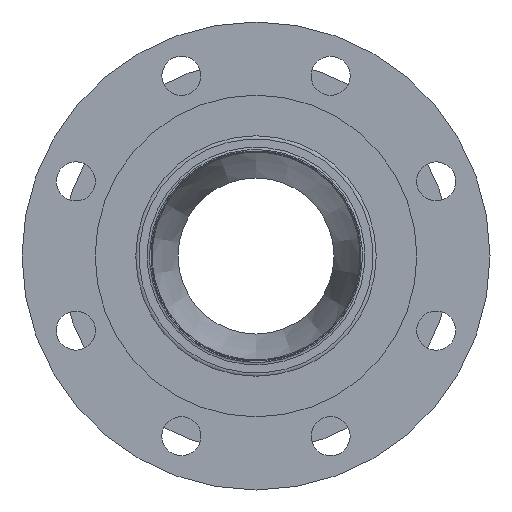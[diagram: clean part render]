
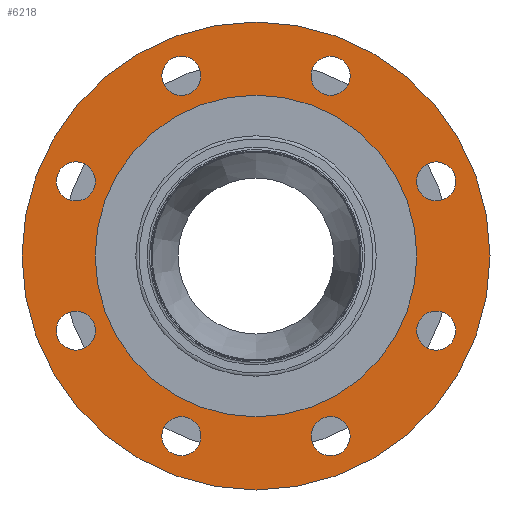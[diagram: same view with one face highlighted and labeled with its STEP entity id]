
A CAD part, front view. The second image highlights one B-rep face of the part: STEP entity #6218.
In plain terms, the highlighted planar face has unit normal (0, -1, 0) as drawn and (0, 1, 0) by its records, which use the part's own axes.
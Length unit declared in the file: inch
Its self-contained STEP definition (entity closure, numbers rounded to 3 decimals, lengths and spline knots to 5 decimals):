
#5879=CARTESIAN_POINT('',(-1.1699,0.5625,3.72971));
#5880=VERTEX_POINT('',#5879);
#5881=CARTESIAN_POINT('',(-1.43506,0.5625,3.46455));
#5882=DIRECTION('',(0.0,-1.0,0.0));
#5883=DIRECTION('',(0.707,0.0,0.707));
#5884=AXIS2_PLACEMENT_3D('',#5881,#5882,#5883);
#5885=CIRCLE('',#5884,0.375);
#5886=EDGE_CURVE('',#5880,#5880,#5885,.T.);
#5907=CARTESIAN_POINT('',(-3.46455,0.5625,1.81006));
#5908=VERTEX_POINT('',#5907);
#5909=CARTESIAN_POINT('',(-3.46455,0.5625,1.43506));
#5910=DIRECTION('',(0.0,-1.0,0.0));
#5911=DIRECTION('',(0.0,0.0,1.0));
#5912=AXIS2_PLACEMENT_3D('',#5909,#5910,#5911);
#5913=CIRCLE('',#5912,0.375);
#5914=EDGE_CURVE('',#5908,#5908,#5913,.T.);
#5935=CARTESIAN_POINT('',(-3.72971,0.5625,-1.1699));
#5936=VERTEX_POINT('',#5935);
#5937=CARTESIAN_POINT('',(-3.46455,0.5625,-1.43506));
#5938=DIRECTION('',(0.0,-1.0,0.0));
#5939=DIRECTION('',(-0.707,0.0,0.707));
#5940=AXIS2_PLACEMENT_3D('',#5937,#5938,#5939);
#5941=CIRCLE('',#5940,0.375);
#5942=EDGE_CURVE('',#5936,#5936,#5941,.T.);
#5963=CARTESIAN_POINT('',(-1.81006,0.5625,-3.46455));
#5964=VERTEX_POINT('',#5963);
#5965=CARTESIAN_POINT('',(-1.43506,0.5625,-3.46455));
#5966=DIRECTION('',(0.0,-1.0,0.0));
#5967=DIRECTION('',(-1.0,0.0,0.0));
#5968=AXIS2_PLACEMENT_3D('',#5965,#5966,#5967);
#5969=CIRCLE('',#5968,0.375);
#5970=EDGE_CURVE('',#5964,#5964,#5969,.T.);
#5991=CARTESIAN_POINT('',(1.1699,0.5625,-3.72971));
#5992=VERTEX_POINT('',#5991);
#5993=CARTESIAN_POINT('',(1.43506,0.5625,-3.46455));
#5994=DIRECTION('',(0.0,-1.0,0.0));
#5995=DIRECTION('',(-0.707,0.0,-0.707));
#5996=AXIS2_PLACEMENT_3D('',#5993,#5994,#5995);
#5997=CIRCLE('',#5996,0.375);
#5998=EDGE_CURVE('',#5992,#5992,#5997,.T.);
#6019=CARTESIAN_POINT('',(3.46455,0.5625,-1.81006));
#6020=VERTEX_POINT('',#6019);
#6021=CARTESIAN_POINT('',(3.46455,0.5625,-1.43506));
#6022=DIRECTION('',(0.0,-1.0,0.0));
#6023=DIRECTION('',(0.0,0.0,-1.0));
#6024=AXIS2_PLACEMENT_3D('',#6021,#6022,#6023);
#6025=CIRCLE('',#6024,0.375);
#6026=EDGE_CURVE('',#6020,#6020,#6025,.T.);
#6047=CARTESIAN_POINT('',(3.72971,0.5625,1.1699));
#6048=VERTEX_POINT('',#6047);
#6049=CARTESIAN_POINT('',(3.46455,0.5625,1.43506));
#6050=DIRECTION('',(0.0,-1.0,0.0));
#6051=DIRECTION('',(0.707,0.0,-0.707));
#6052=AXIS2_PLACEMENT_3D('',#6049,#6050,#6051);
#6053=CIRCLE('',#6052,0.375);
#6054=EDGE_CURVE('',#6048,#6048,#6053,.T.);
#6075=CARTESIAN_POINT('',(1.81006,0.5625,3.46455));
#6076=VERTEX_POINT('',#6075);
#6077=CARTESIAN_POINT('',(1.43506,0.5625,3.46455));
#6078=DIRECTION('',(0.0,-1.0,0.0));
#6079=DIRECTION('',(1.0,0.0,0.0));
#6080=AXIS2_PLACEMENT_3D('',#6077,#6078,#6079);
#6081=CIRCLE('',#6080,0.375);
#6082=EDGE_CURVE('',#6076,#6076,#6081,.T.);
#6103=CARTESIAN_POINT('',(3.09375,0.5625,0.));
#6104=VERTEX_POINT('',#6103);
#6105=CARTESIAN_POINT('',(0.0,0.5625,0.0));
#6106=DIRECTION('',(0.0,-1.0,0.0));
#6107=DIRECTION('',(-1.0,0.0,0.0));
#6108=AXIS2_PLACEMENT_3D('',#6105,#6106,#6107);
#6109=CIRCLE('',#6108,3.09375);
#6110=EDGE_CURVE('',#6104,#6104,#6109,.T.);
#6160=CARTESIAN_POINT('',(-4.5,0.5625,0.));
#6161=VERTEX_POINT('',#6160);
#6162=CARTESIAN_POINT('',(0.0,0.5625,0.0));
#6163=DIRECTION('',(0.0,-1.0,0.0));
#6164=DIRECTION('',(1.0,0.0,0.0));
#6165=AXIS2_PLACEMENT_3D('',#6162,#6163,#6164);
#6166=CIRCLE('',#6165,4.5);
#6167=EDGE_CURVE('',#6161,#6161,#6166,.T.);
#6183=CARTESIAN_POINT('',(0.0,0.5625,0.0));
#6184=DIRECTION('',(0.0,-1.0,0.0));
#6185=DIRECTION('',(0.0,0.0,-1.0));
#6186=AXIS2_PLACEMENT_3D('',#6183,#6184,#6185);
#6187=PLANE('',#6186);
#6188=ORIENTED_EDGE('',*,*,#6167,.F.);
#6189=EDGE_LOOP('',(#6188));
#6190=FACE_OUTER_BOUND('',#6189,.T.);
#6191=ORIENTED_EDGE('',*,*,#5886,.T.);
#6192=EDGE_LOOP('',(#6191));
#6193=FACE_BOUND('',#6192,.T.);
#6194=ORIENTED_EDGE('',*,*,#5914,.T.);
#6195=EDGE_LOOP('',(#6194));
#6196=FACE_BOUND('',#6195,.T.);
#6197=ORIENTED_EDGE('',*,*,#5942,.T.);
#6198=EDGE_LOOP('',(#6197));
#6199=FACE_BOUND('',#6198,.T.);
#6200=ORIENTED_EDGE('',*,*,#5970,.T.);
#6201=EDGE_LOOP('',(#6200));
#6202=FACE_BOUND('',#6201,.T.);
#6203=ORIENTED_EDGE('',*,*,#5998,.T.);
#6204=EDGE_LOOP('',(#6203));
#6205=FACE_BOUND('',#6204,.T.);
#6206=ORIENTED_EDGE('',*,*,#6026,.T.);
#6207=EDGE_LOOP('',(#6206));
#6208=FACE_BOUND('',#6207,.T.);
#6209=ORIENTED_EDGE('',*,*,#6054,.T.);
#6210=EDGE_LOOP('',(#6209));
#6211=FACE_BOUND('',#6210,.T.);
#6212=ORIENTED_EDGE('',*,*,#6082,.T.);
#6213=EDGE_LOOP('',(#6212));
#6214=FACE_BOUND('',#6213,.T.);
#6215=ORIENTED_EDGE('',*,*,#6110,.T.);
#6216=EDGE_LOOP('',(#6215));
#6217=FACE_BOUND('',#6216,.T.);
#6218=ADVANCED_FACE('',(#6190,#6193,#6196,#6199,#6202,#6205,#6208,#6211,#6214,#6217),#6187,.F.);
